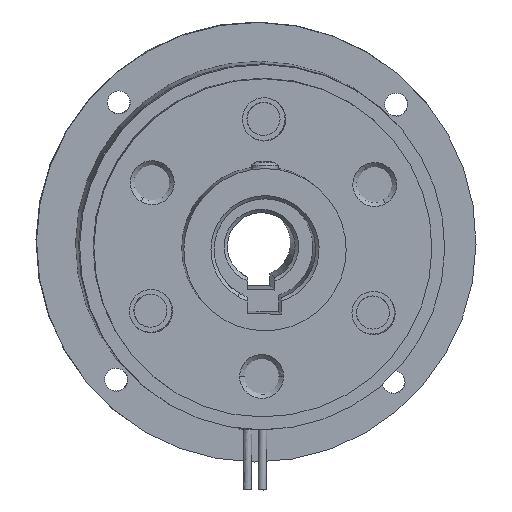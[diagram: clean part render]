
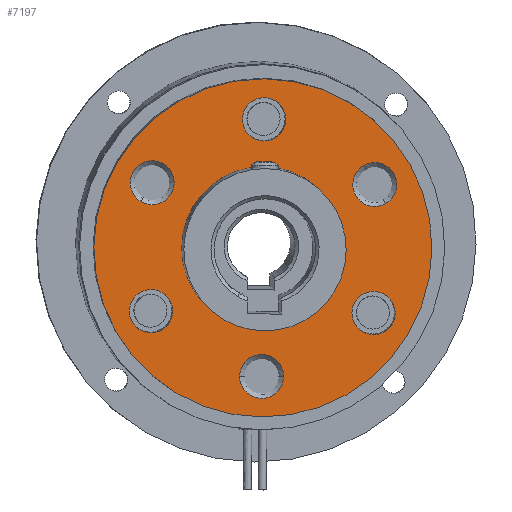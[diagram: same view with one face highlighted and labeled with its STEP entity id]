
A CAD part, top view. The second image highlights one B-rep face of the part: STEP entity #7197.
In plain terms, the highlighted planar face has unit normal (0.035, -0.032, 0.999) as drawn and (0, 0, 1) by its records, which use the part's own axes.
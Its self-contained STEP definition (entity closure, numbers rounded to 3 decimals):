
#5961=CARTESIAN_POINT('',(-25.0,0.,3.0));
#5962=VERTEX_POINT('',#5961);
#5978=CARTESIAN_POINT('',(25.0,0.,3.0));
#5979=VERTEX_POINT('',#5978);
#5986=CARTESIAN_POINT('',(0.0,0.0,3.0));
#5987=DIRECTION('',(0.0,0.0,-1.0));
#5988=DIRECTION('',(-1.0,0.0,0.0));
#5989=AXIS2_PLACEMENT_3D('',#5986,#5987,#5988);
#5990=CIRCLE('',#5989,25.0);
#5991=EDGE_CURVE('',#5979,#5962,#5990,.T.);
#6001=CARTESIAN_POINT('',(-12.0,0.,3.0));
#6002=VERTEX_POINT('',#6001);
#6011=CARTESIAN_POINT('',(12.0,0.,3.0));
#6012=VERTEX_POINT('',#6011);
#6013=CARTESIAN_POINT('',(0.0,0.0,3.0));
#6014=DIRECTION('',(0.0,0.0,-1.0));
#6015=DIRECTION('',(-1.0,0.0,0.0));
#6016=AXIS2_PLACEMENT_3D('',#6013,#6014,#6015);
#6017=CIRCLE('',#6016,12.0);
#6018=EDGE_CURVE('',#6012,#6002,#6017,.T.);
#6147=CARTESIAN_POINT('',(-3.25,-19.0,3.0));
#6148=VERTEX_POINT('',#6147);
#6162=CARTESIAN_POINT('',(3.25,-19.0,3.0));
#6163=VERTEX_POINT('',#6162);
#6170=CARTESIAN_POINT('',(0.,-19.0,3.0));
#6171=DIRECTION('',(0.0,0.0,1.0));
#6172=DIRECTION('',(-1.0,0.0,0.0));
#6173=AXIS2_PLACEMENT_3D('',#6170,#6171,#6172);
#6174=CIRCLE('',#6173,3.25);
#6175=EDGE_CURVE('',#6163,#6148,#6174,.T.);
#6227=CARTESIAN_POINT('',(18.079,6.685,3.0));
#6228=VERTEX_POINT('',#6227);
#6242=CARTESIAN_POINT('',(14.829,12.315,3.0));
#6243=VERTEX_POINT('',#6242);
#6250=CARTESIAN_POINT('',(16.454,9.5,3.0));
#6251=DIRECTION('',(0.0,0.0,1.0));
#6252=DIRECTION('',(0.5,-0.866,0.0));
#6253=AXIS2_PLACEMENT_3D('',#6250,#6251,#6252);
#6254=CIRCLE('',#6253,3.25);
#6255=EDGE_CURVE('',#6243,#6228,#6254,.T.);
#6307=CARTESIAN_POINT('',(-14.829,12.315,3.0));
#6308=VERTEX_POINT('',#6307);
#6322=CARTESIAN_POINT('',(-18.079,6.685,3.0));
#6323=VERTEX_POINT('',#6322);
#6330=CARTESIAN_POINT('',(-16.454,9.5,3.0));
#6331=DIRECTION('',(0.0,0.0,1.0));
#6332=DIRECTION('',(0.5,0.866,0.0));
#6333=AXIS2_PLACEMENT_3D('',#6330,#6331,#6332);
#6334=CIRCLE('',#6333,3.25);
#6335=EDGE_CURVE('',#6323,#6308,#6334,.T.);
#6347=CARTESIAN_POINT('',(-19.654,-9.5,3.0));
#6348=VERTEX_POINT('',#6347);
#6364=CARTESIAN_POINT('',(-13.254,-9.5,3.0));
#6365=VERTEX_POINT('',#6364);
#6372=CARTESIAN_POINT('',(-16.454,-9.5,3.0));
#6373=DIRECTION('',(0.0,0.0,-1.0));
#6374=DIRECTION('',(-1.0,0.0,0.0));
#6375=AXIS2_PLACEMENT_3D('',#6372,#6373,#6374);
#6376=CIRCLE('',#6375,3.2);
#6377=EDGE_CURVE('',#6348,#6365,#6376,.T.);
#6389=CARTESIAN_POINT('',(1.6,21.771,3.0));
#6390=VERTEX_POINT('',#6389);
#6406=CARTESIAN_POINT('',(-1.6,16.229,3.));
#6407=VERTEX_POINT('',#6406);
#6414=CARTESIAN_POINT('',(0.,19.0,3.0));
#6415=DIRECTION('',(0.0,0.0,-1.));
#6416=DIRECTION('',(0.5,0.866,0.0));
#6417=AXIS2_PLACEMENT_3D('',#6414,#6415,#6416);
#6418=CIRCLE('',#6417,3.2);
#6419=EDGE_CURVE('',#6390,#6407,#6418,.T.);
#6431=CARTESIAN_POINT('',(18.054,-12.271,3.0));
#6432=VERTEX_POINT('',#6431);
#6448=CARTESIAN_POINT('',(14.854,-6.729,3.0));
#6449=VERTEX_POINT('',#6448);
#6456=CARTESIAN_POINT('',(16.454,-9.5,3.0));
#6457=DIRECTION('',(0.0,0.0,-1.));
#6458=DIRECTION('',(0.5,-0.866,0.0));
#6459=AXIS2_PLACEMENT_3D('',#6456,#6457,#6458);
#6460=CIRCLE('',#6459,3.2);
#6461=EDGE_CURVE('',#6432,#6449,#6460,.T.);
#7070=CARTESIAN_POINT('',(16.454,-9.5,3.0));
#7071=DIRECTION('',(0.0,0.0,-1.));
#7072=DIRECTION('',(0.5,-0.866,0.0));
#7073=AXIS2_PLACEMENT_3D('',#7070,#7071,#7072);
#7074=CIRCLE('',#7073,3.2);
#7075=EDGE_CURVE('',#6449,#6432,#7074,.T.);
#7088=CARTESIAN_POINT('',(0.,19.0,3.0));
#7089=DIRECTION('',(0.0,0.0,-1.));
#7090=DIRECTION('',(0.5,0.866,0.0));
#7091=AXIS2_PLACEMENT_3D('',#7088,#7089,#7090);
#7092=CIRCLE('',#7091,3.2);
#7093=EDGE_CURVE('',#6407,#6390,#7092,.T.);
#7106=CARTESIAN_POINT('',(-16.454,-9.5,3.0));
#7107=DIRECTION('',(0.0,0.0,-1.0));
#7108=DIRECTION('',(-1.0,0.0,0.0));
#7109=AXIS2_PLACEMENT_3D('',#7106,#7107,#7108);
#7110=CIRCLE('',#7109,3.2);
#7111=EDGE_CURVE('',#6365,#6348,#7110,.T.);
#7124=CARTESIAN_POINT('',(-16.454,9.5,3.0));
#7125=DIRECTION('',(0.0,0.0,1.0));
#7126=DIRECTION('',(0.5,0.866,0.0));
#7127=AXIS2_PLACEMENT_3D('',#7124,#7125,#7126);
#7128=CIRCLE('',#7127,3.25);
#7129=EDGE_CURVE('',#6308,#6323,#7128,.T.);
#7136=CARTESIAN_POINT('',(0.0,0.0,3.0));
#7137=DIRECTION('',(0.0,0.0,-1.0));
#7138=DIRECTION('',(-1.0,0.0,0.0));
#7139=AXIS2_PLACEMENT_3D('',#7136,#7137,#7138);
#7140=PLANE('',#7139);
#7141=ORIENTED_EDGE('',*,*,#5991,.F.);
#7142=CARTESIAN_POINT('',(0.0,0.0,3.0));
#7143=DIRECTION('',(0.0,0.0,-1.0));
#7144=DIRECTION('',(-1.0,0.0,0.0));
#7145=AXIS2_PLACEMENT_3D('',#7142,#7143,#7144);
#7146=CIRCLE('',#7145,25.0);
#7147=EDGE_CURVE('',#5962,#5979,#7146,.T.);
#7148=ORIENTED_EDGE('',*,*,#7147,.F.);
#7149=EDGE_LOOP('',(#7141,#7148));
#7150=FACE_OUTER_BOUND('',#7149,.T.);
#7151=ORIENTED_EDGE('',*,*,#7075,.T.);
#7152=ORIENTED_EDGE('',*,*,#6461,.T.);
#7153=EDGE_LOOP('',(#7151,#7152));
#7154=FACE_BOUND('',#7153,.T.);
#7155=ORIENTED_EDGE('',*,*,#7093,.T.);
#7156=ORIENTED_EDGE('',*,*,#6419,.T.);
#7157=EDGE_LOOP('',(#7155,#7156));
#7158=FACE_BOUND('',#7157,.T.);
#7159=ORIENTED_EDGE('',*,*,#7111,.T.);
#7160=ORIENTED_EDGE('',*,*,#6377,.T.);
#7161=EDGE_LOOP('',(#7159,#7160));
#7162=FACE_BOUND('',#7161,.T.);
#7163=ORIENTED_EDGE('',*,*,#6255,.F.);
#7164=CARTESIAN_POINT('',(16.454,9.5,3.0));
#7165=DIRECTION('',(0.0,0.0,1.0));
#7166=DIRECTION('',(0.5,-0.866,0.0));
#7167=AXIS2_PLACEMENT_3D('',#7164,#7165,#7166);
#7168=CIRCLE('',#7167,3.25);
#7169=EDGE_CURVE('',#6228,#6243,#7168,.T.);
#7170=ORIENTED_EDGE('',*,*,#7169,.F.);
#7171=EDGE_LOOP('',(#7163,#7170));
#7172=FACE_BOUND('',#7171,.T.);
#7173=ORIENTED_EDGE('',*,*,#6018,.T.);
#7174=CARTESIAN_POINT('',(0.0,0.0,3.0));
#7175=DIRECTION('',(0.0,0.0,-1.0));
#7176=DIRECTION('',(-1.0,0.0,0.0));
#7177=AXIS2_PLACEMENT_3D('',#7174,#7175,#7176);
#7178=CIRCLE('',#7177,12.0);
#7179=EDGE_CURVE('',#6002,#6012,#7178,.T.);
#7180=ORIENTED_EDGE('',*,*,#7179,.T.);
#7181=EDGE_LOOP('',(#7173,#7180));
#7182=FACE_BOUND('',#7181,.T.);
#7183=ORIENTED_EDGE('',*,*,#6175,.F.);
#7184=CARTESIAN_POINT('',(0.,-19.0,3.0));
#7185=DIRECTION('',(0.0,0.0,1.0));
#7186=DIRECTION('',(-1.0,0.0,0.0));
#7187=AXIS2_PLACEMENT_3D('',#7184,#7185,#7186);
#7188=CIRCLE('',#7187,3.25);
#7189=EDGE_CURVE('',#6148,#6163,#7188,.T.);
#7190=ORIENTED_EDGE('',*,*,#7189,.F.);
#7191=EDGE_LOOP('',(#7183,#7190));
#7192=FACE_BOUND('',#7191,.T.);
#7193=ORIENTED_EDGE('',*,*,#6335,.F.);
#7194=ORIENTED_EDGE('',*,*,#7129,.F.);
#7195=EDGE_LOOP('',(#7193,#7194));
#7196=FACE_BOUND('',#7195,.T.);
#7197=ADVANCED_FACE('',(#7150,#7154,#7158,#7162,#7172,#7182,#7192,#7196),#7140,.F.);
